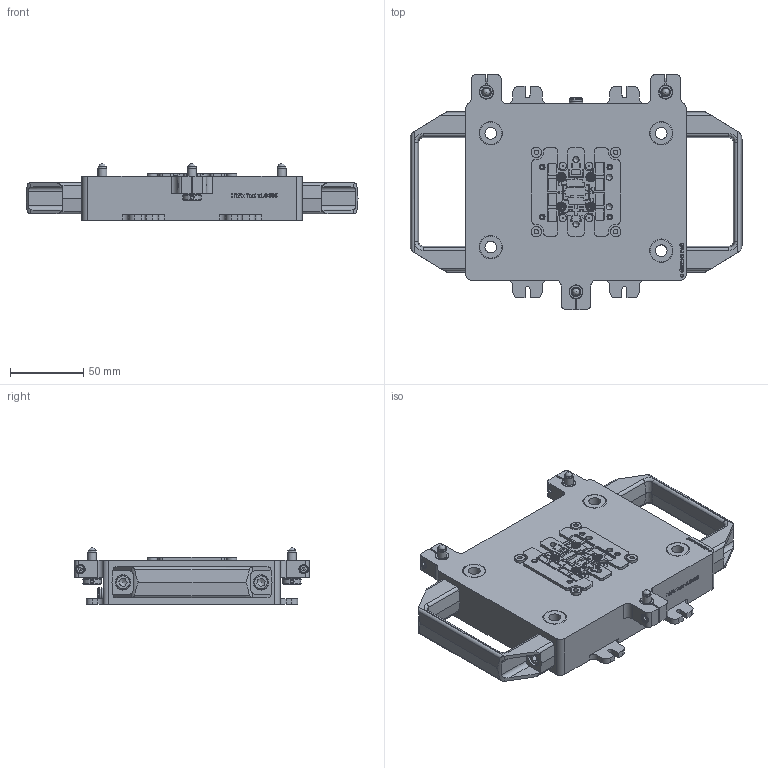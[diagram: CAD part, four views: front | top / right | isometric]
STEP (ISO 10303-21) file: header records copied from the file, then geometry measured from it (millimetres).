
FILE_DESCRIPTION(/* description */ ('Flex Jig'),/* implementation_level */ '2;1');
FILE_NAME(/* name */ 'ITPT.02.00.000.stp',/* time_stamp */ '2025-02-12T14:32:53+01:00',/* author */ ('Rüdiger Widera'),/* organization */ (''),/* preprocessor_version */ 'ST-DEVELOPER v19.2',/* originating_system */ 'Autodesk Inventor 2024',/* authorisation */ '');
FILE_SCHEMA (('AUTOMOTIVE_DESIGN { 1 0 10303 214 3 1 1 }'));
Products named in the file (19): ITPT.02.00.000; ITPT.02.00.001; ITPT.02.00.002; G1/8-SW9-6; ITPT.02.00.003; 3x70-NBR ; DIN 912 - M3 x 20; 1.1_fk10-008-tretter; DIN 912 - M3 x 8; 09845C003,00; 09845C001,00; DIN 912 - M3 x 12; F6MSSA1-Step; LN6M25-Step; Cabinet ''U'' handle GN 528-ESD-94-6,5-SW; DIN 912 - M6 x 12; ISO 2338 - 3 m6 x 10 - B; ISO 8734 - 1 x 6 - A; F6MSS25-Step
Assembly tree (65 placements, depth 2):
  ITPT.02.00.000
    ITPT.02.00.001
    ITPT.02.00.002
    G1/8-SW9-6
    DIN 912 - M3 x 12  x3
    ITPT.02.00.003
    3x70-NBR 
    DIN 912 - M3 x 20  x10
    1.1_fk10-008-tretter  x4
    DIN 912 - M3 x 8  x16
    09845C003,00  x4
    09845C001,00  x4
    F6MSSA1-Step  x3
    LN6M25-Step  x3
    DIN 912 - M6 x 12  x4
    ISO 2338 - 3 m6 x 10 - B  x2
    ISO 8734 - 1 x 6 - A  x4
    F6MSS25-Step  x3
  Cabinet ''U'' handle GN 528-ESD-94-6,5-SW
Bounding box: 226 x 160 x 38.68 mm (x, y, z)
Volume: 531829.6 mm3; surface area: 182189.5 mm2
Topology: 70 solids, 70 shells, 2412 faces, 6104 edges, 3951 vertices
Faces by surface type: plane 1098, cylinder 629, bspline 312, cone 289, torus 81, sphere 3
Full cylindrical faces by diameter (mm): 0.6 x16, 0.8 x39, 1 x8, 2 x4, 2.286 x12, 2.459 x33, 2.6 x1, 3 x39, 3.4 x23, 3.6 x16, 4 x5, 4.1 x2, 4.775 x3, 4.917 x4, 5 x8, 5.5 x29, 5.982 x3, 6 x20, 6.118 x6, 6.4 x1, 6.5 x17, 6.6 x4, 7 x8, 7.3 x1, 7.6 x2, 8 x4, 8.3 x1, 8.566 x1, 8.992 x3, 9 x2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
Entity records: 63055 total; most frequent: CARTESIAN_POINT 21024, ORIENTED_EDGE 8828, DIRECTION 7923, EDGE_CURVE 4414, VERTEX_POINT 2879, AXIS2_PLACEMENT_3D 2707, LINE 2509, VECTOR 2509
